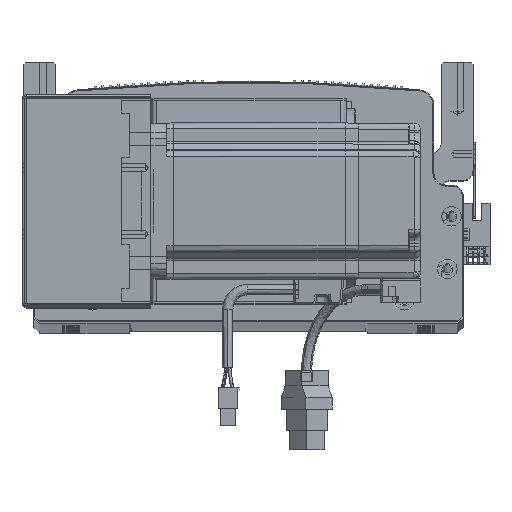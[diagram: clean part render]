
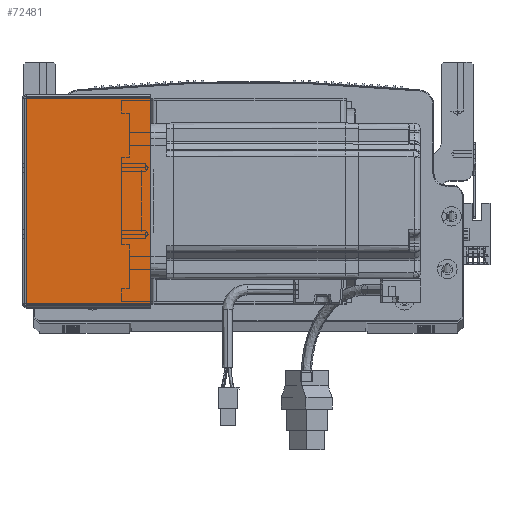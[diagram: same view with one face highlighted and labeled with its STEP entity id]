
A CAD part, top view. The second image highlights one B-rep face of the part: STEP entity #72481.
In plain terms, the highlighted planar face has unit normal (0, 0, 1) as drawn and (0, 0, -1) by its records, which use the part's own axes.
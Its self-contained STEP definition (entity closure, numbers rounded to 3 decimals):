
#7369 = VERTEX_POINT ( 'NONE', #82994 ) ;
#14758 = CARTESIAN_POINT ( 'NONE',  ( 64.5, 0., -205.5 ) ) ;
#16785 = PLANE ( 'NONE',  #94492 ) ;
#19307 = CARTESIAN_POINT ( 'NONE',  ( 0.737, 0.707, -205.5 ) ) ;
#19369 = LINE ( 'NONE', #36045, #29919 ) ;
#20324 = DIRECTION ( 'NONE',  ( 1., 0., 0. ) ) ;
#21579 = DIRECTION ( 'NONE',  ( 1., 0., 0. ) ) ;
#23027 = ORIENTED_EDGE ( 'NONE', *, *, #30376, .F. ) ;
#23501 = EDGE_LOOP ( 'NONE', ( #26032, #54206, #56656, #23027 ) ) ;
#26032 = ORIENTED_EDGE ( 'NONE', *, *, #58257, .F. ) ;
#29919 = VECTOR ( 'NONE', #20324, 1000. ) ;
#30376 = EDGE_CURVE ( 'NONE', #68482, #55085, #19369, .T. ) ;
#32842 = DIRECTION ( 'NONE',  ( 1., 0., 0. ) ) ;
#36045 = CARTESIAN_POINT ( 'NONE',  ( 0., 0.707, -205.5 ) ) ;
#36341 = DIRECTION ( 'NONE',  ( 0., -1., 0. ) ) ;
#39958 = LINE ( 'NONE', #51848, #91502 ) ;
#40152 = CARTESIAN_POINT ( 'NONE',  ( 64.5, 105.293, -205.5 ) ) ;
#42816 = CARTESIAN_POINT ( 'NONE',  ( 64.5, 0.707, -205.5 ) ) ;
#44063 = DIRECTION ( 'NONE',  ( 0., -1., 0. ) ) ;
#50724 = LINE ( 'NONE', #14758, #85901 ) ;
#51848 = CARTESIAN_POINT ( 'NONE',  ( 0.737, 0., -205.5 ) ) ;
#54206 = ORIENTED_EDGE ( 'NONE', *, *, #86741, .T. ) ;
#55085 = VERTEX_POINT ( 'NONE', #42816 ) ;
#56656 = ORIENTED_EDGE ( 'NONE', *, *, #72880, .T. ) ;
#57591 = CARTESIAN_POINT ( 'NONE',  ( 0., 105.293, -205.5 ) ) ;
#57910 = VECTOR ( 'NONE', #21579, 1000. ) ;
#58257 = EDGE_CURVE ( 'NONE', #7369, #68482, #39958, .T. ) ;
#62499 = DIRECTION ( 'NONE',  ( 0., 0., 1. ) ) ;
#68482 = VERTEX_POINT ( 'NONE', #19307 ) ;
#72481 = ADVANCED_FACE ( 'NONE', ( #78937 ), #16785, .F. ) ;
#72880 = EDGE_CURVE ( 'NONE', #75965, #55085, #50724, .T. ) ;
#75965 = VERTEX_POINT ( 'NONE', #40152 ) ;
#76288 = CARTESIAN_POINT ( 'NONE',  ( 0., 0., -205.5 ) ) ;
#77805 = LINE ( 'NONE', #57591, #57910 ) ;
#78937 = FACE_OUTER_BOUND ( 'NONE', #23501, .T. ) ;
#82994 = CARTESIAN_POINT ( 'NONE',  ( 0.737, 105.293, -205.5 ) ) ;
#85901 = VECTOR ( 'NONE', #36341, 1000. ) ;
#86741 = EDGE_CURVE ( 'NONE', #7369, #75965, #77805, .T. ) ;
#91502 = VECTOR ( 'NONE', #44063, 1000. ) ;
#94492 = AXIS2_PLACEMENT_3D ( 'NONE', #76288, #62499, #32842 ) ;
